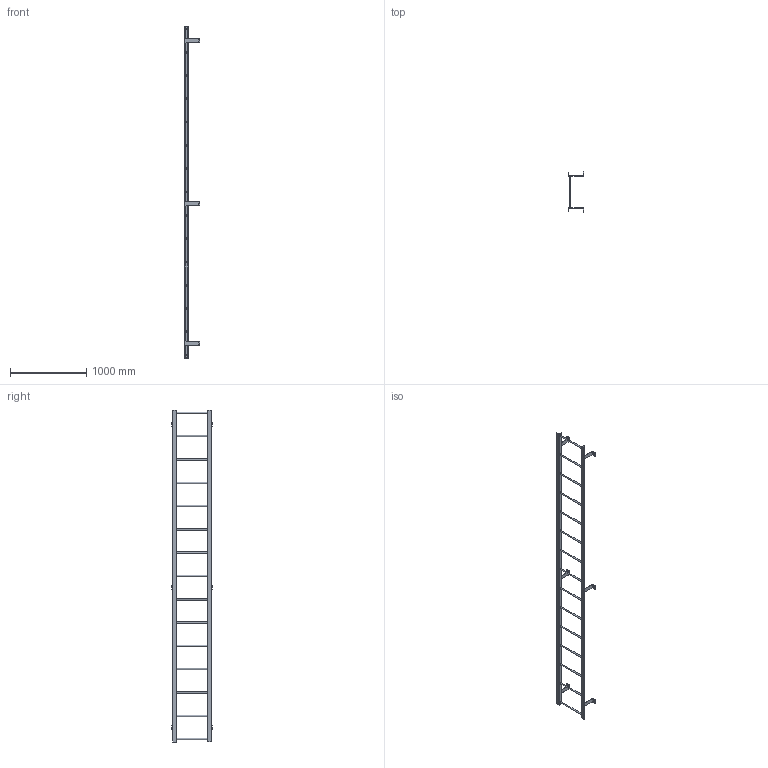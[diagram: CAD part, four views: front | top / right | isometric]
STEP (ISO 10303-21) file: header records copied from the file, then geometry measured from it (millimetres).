
FILE_DESCRIPTION(/* description */ (''),/* implementation_level */ '2;1');
FILE_NAME(/* name */ 'P:\MIKEL & KAREN\3570215 F15S SIMPLIFIED PART.stp',/* time_stamp */ '2018-07-02T15:32:29-04:00',/* author */ ('stephanie'),/* organization */ (''),/* preprocessor_version */ 'ST-DEVELOPER v16.1',/* originating_system */ 'Autodesk Inventor 2016',/* authorisation */ '');
FILE_SCHEMA (('AUTOMOTIVE_DESIGN { 1 0 10303 214 3 1 1 }'));
Length unit declared in the file: centimetre
Products named in the file (1): 3570215 F15S SIMPLIFIED PART
Bounding box: 203.33 x 533.25 x 4343.4 mm (x, y, z)
Volume: 7470609.1 mm3; surface area: 2240425.7 mm2
Topology: 17 solids, 17 shells, 183 faces, 471 edges, 322 vertices
Faces by surface type: plane 101, cylinder 82
Full cylindrical faces by diameter (mm): 14.287 x6, 19.05 x15, 22.225 x30
Entity records: 5430 total; most frequent: DIRECTION 928, CARTESIAN_POINT 854, ORIENTED_EDGE 768, EDGE_CURVE 384, AXIS2_PLACEMENT_3D 360, EDGE_LOOP 306, VERTEX_POINT 286, LINE 208
